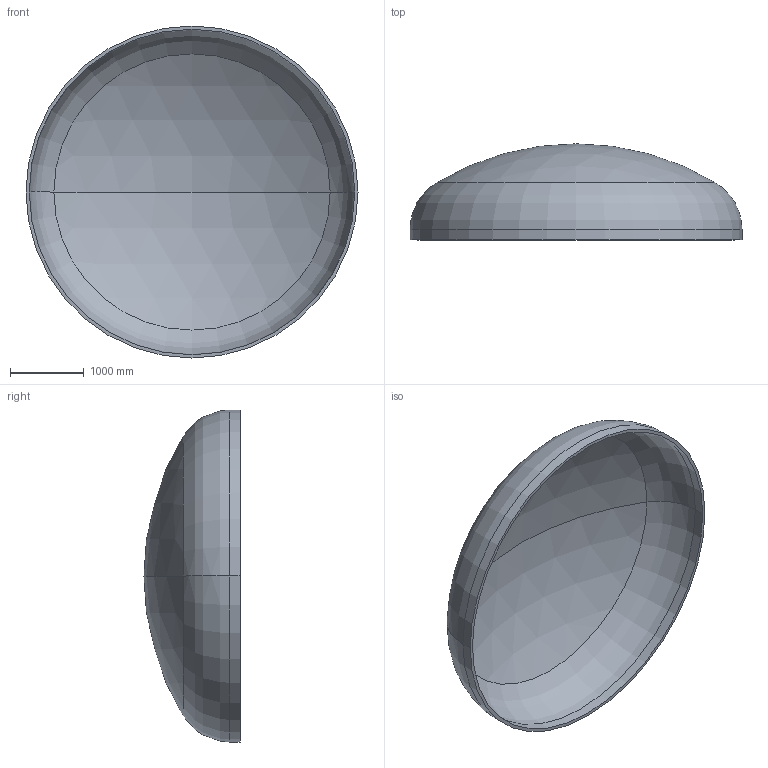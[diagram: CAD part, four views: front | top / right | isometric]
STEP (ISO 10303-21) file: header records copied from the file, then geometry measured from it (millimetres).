
FILE_DESCRIPTION (( 'STEP AP203' ), '1' );
FILE_NAME ('DIN 28013 Korbbogenform_-_Boden DIN 28013 - 4500 x 140 - I - s=44.step', '2016-07-01T23:27:19', ( '' ), ( '' ), 'SwSTEP 2.0', 'SolidWorks 2013', '' );
FILE_SCHEMA (( 'CONFIG_CONTROL_DESIGN' ));
Length unit declared in the file: millimetre
Products named in the file (1): DIN 28013 Korbbogenform_-_Boden DIN 28013 - 4500 x 140 - I - s=44
Bounding box: 4500 x 1302.89 x 4500 mm (x, y, z)
Volume: 1043522116 mm3; surface area: 48052814 mm2
Topology: 1 solids, 1 shells, 13 faces, 24 edges, 14 vertices
Faces by surface type: torus 4, cylinder 4, sphere 4, plane 1
Entity records: 407 total; most frequent: DIRECTION 72, CARTESIAN_POINT 52, ORIENTED_EDGE 48, AXIS2_PLACEMENT_3D 34, EDGE_CURVE 24, CIRCLE 20, EDGE_LOOP 14, VERTEX_POINT 14
